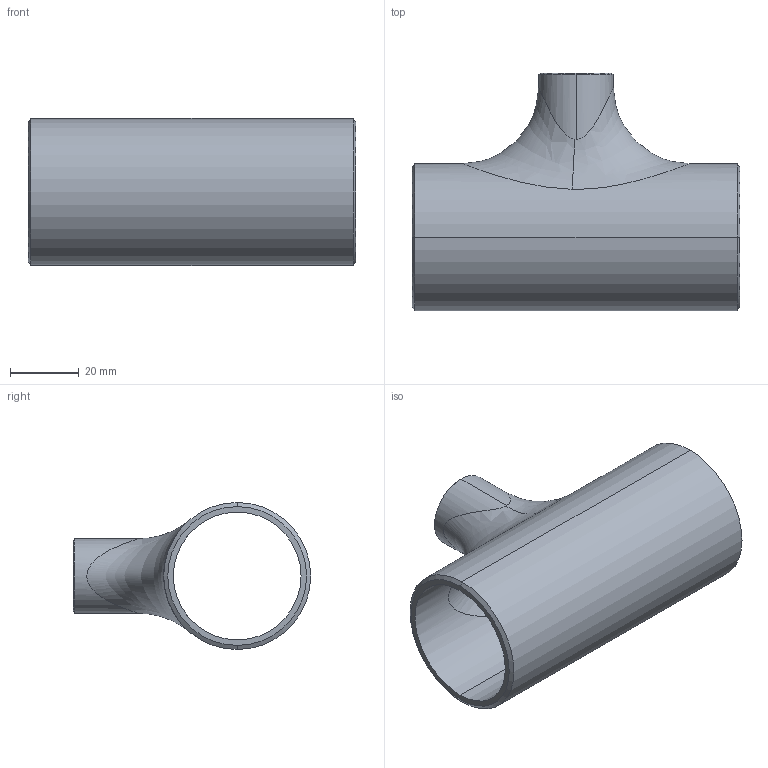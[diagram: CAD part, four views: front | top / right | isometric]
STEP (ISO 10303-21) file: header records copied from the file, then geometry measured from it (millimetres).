
FILE_DESCRIPTION (( 'STEP AP214' ), '1' );
FILE_NAME ('Different-tee_Sch10S-32Ax15A.STEP', '2022-06-27T23:55:15', ( 'ASIS User' ), ( 'ASIS User' ), 'SwSTEP 2.0', 'SolidWorks 2022', '' );
FILE_SCHEMA (( 'AUTOMOTIVE_DESIGN' ));
Length unit declared in the file: millimetre
Products named in the file (1): Different-tee_Sch10S-32Ax15A
Bounding box: 95.2 x 68.95 x 42.7 mm (x, y, z)
Volume: 35994.9 mm3; surface area: 27444.3 mm2
Topology: 1 solids, 1 shells, 21 faces, 48 edges, 30 vertices
Faces by surface type: cylinder 8, cone 6, bspline 4, plane 3
Entity records: 2013 total; most frequent: CARTESIAN_POINT 1515, ORIENTED_EDGE 96, DIRECTION 94, EDGE_CURVE 48, AXIS2_PLACEMENT_3D 40, VERTEX_POINT 30, EDGE_LOOP 26, CIRCLE 22
